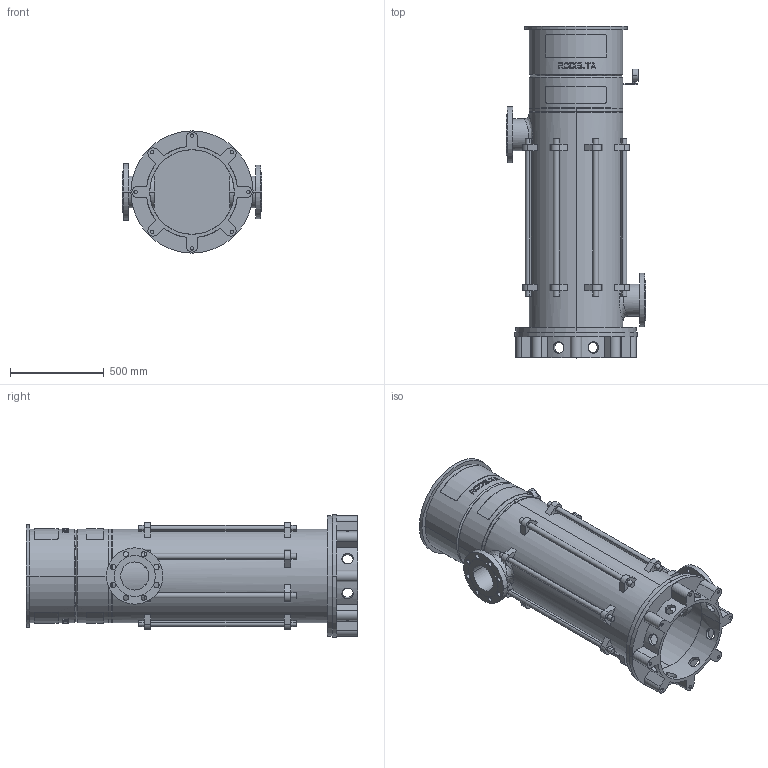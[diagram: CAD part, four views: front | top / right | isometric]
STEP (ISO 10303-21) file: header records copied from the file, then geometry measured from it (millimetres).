
FILE_DESCRIPTION((''),'2;1');
FILE_NAME('LS6_5TR_0GR_PN25_ABOVE_30KW','2025-10-24T10:42:11',('Lyritlocal'),(''),'CREO PARAMETRIC BY PTC INC, 2022014','CREO PARAMETRIC BY PTC INC, 2022014','');
FILE_SCHEMA(('CONFIG_CONTROL_DESIGN'));
Length unit declared in the file: millimetre
Products named in the file (1): LS6_5TR_0GR_PN25_ABOVE_30KW
Bounding box: 740 x 1765 x 650 mm (x, y, z)
Volume: 57089216 mm3; surface area: 7979077.6 mm2
Topology: 3 solids, 11 shells, 732 faces, 1889 edges, 1258 vertices
Faces by surface type: plane 438, cylinder 274, cone 12, bspline 8
Entity records: 24200 total; most frequent: CARTESIAN_POINT 6380, ORIENTED_EDGE 3746, DIRECTION 3535, EDGE_CURVE 1889, AXIS2_PLACEMENT_3D 1341, VERTEX_POINT 1258, EDGE_LOOP 895, VECTOR 853
